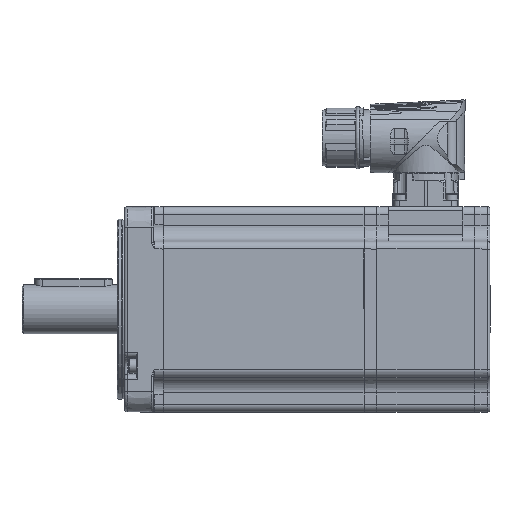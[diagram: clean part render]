
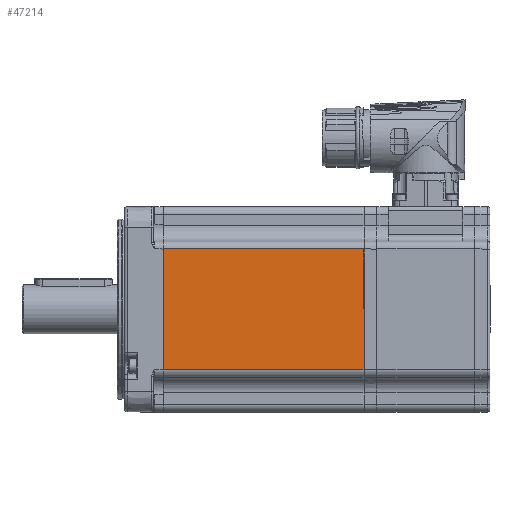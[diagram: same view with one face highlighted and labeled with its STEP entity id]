
A CAD part, left-side view. The second image highlights one B-rep face of the part: STEP entity #47214.
In plain terms, the highlighted planar face has unit normal (-1, 0, 0) as drawn and (0, -1, 0) by its records, which use the part's own axes.
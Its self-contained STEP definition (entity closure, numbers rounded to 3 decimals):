
#1986=LINE('',#61844,#4136);
#1994=LINE('',#61891,#4144);
#2001=LINE('',#61942,#4151);
#2002=LINE('',#61943,#4152);
#4136=VECTOR('',#52894,1000.);
#4144=VECTOR('',#52934,1000.);
#4151=VECTOR('',#52987,1000.);
#4152=VECTOR('',#52988,1000.);
#6279=PLANE('',#49487);
#7553=ORIENTED_EDGE('',*,*,#17365,.T.);
#7554=ORIENTED_EDGE('',*,*,#17343,.T.);
#7555=ORIENTED_EDGE('',*,*,#17366,.T.);
#7556=ORIENTED_EDGE('',*,*,#17320,.T.);
#17320=EDGE_CURVE('',#22234,#22233,#1986,.T.);
#17343=EDGE_CURVE('',#22257,#22256,#1994,.T.);
#17365=EDGE_CURVE('',#22233,#22257,#2001,.F.);
#17366=EDGE_CURVE('',#22256,#22234,#2002,.F.);
#22233=VERTEX_POINT('',#61843);
#22234=VERTEX_POINT('',#61845);
#22256=VERTEX_POINT('',#61890);
#22257=VERTEX_POINT('',#61892);
#27038=EDGE_LOOP('',(#7553,#7554,#7555,#7556));
#29863=FACE_BOUND('',#27038,.T.);
#47214=ADVANCED_FACE('',(#29863),#6279,.T.);
#49487=AXIS2_PLACEMENT_3D('',#61941,#52985,#52986);
#52894=DIRECTION('',(0.,0.,-1.));
#52934=DIRECTION('',(0.,0.,1.));
#52985=DIRECTION('',(0.,-1.,0.));
#52986=DIRECTION('',(0.,0.,-1.));
#52987=DIRECTION('',(-1.,0.,0.));
#52988=DIRECTION('',(1.,0.,0.));
#61843=CARTESIAN_POINT('',(-79.,-40.,-23.5));
#61844=CARTESIAN_POINT('',(-79.,-40.,40.));
#61845=CARTESIAN_POINT('',(-79.,-40.,23.5));
#61890=CARTESIAN_POINT('',(-1.,-40.,23.5));
#61891=CARTESIAN_POINT('',(-1.,-40.,40.));
#61892=CARTESIAN_POINT('',(-1.,-40.,-23.5));
#61941=CARTESIAN_POINT('',(-200.,-40.,40.));
#61942=CARTESIAN_POINT('',(0.,-40.,-23.5));
#61943=CARTESIAN_POINT('',(-200.,-40.,23.5));
